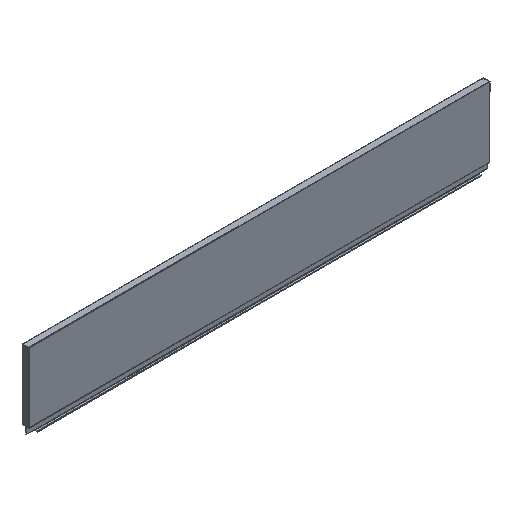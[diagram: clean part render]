
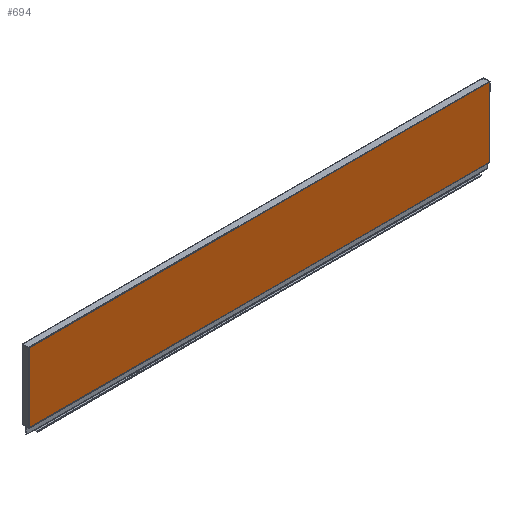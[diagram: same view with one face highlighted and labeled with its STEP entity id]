
A CAD part, isometric view. The second image highlights one B-rep face of the part: STEP entity #694.
In plain terms, the highlighted planar face has unit normal (0, -1, 0).
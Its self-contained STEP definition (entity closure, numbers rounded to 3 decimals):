
#128 = DIRECTION ( 'NONE',  ( 1., 0., 0. ) ) ;
#130 = DIRECTION ( 'NONE',  ( 0., -1., 0. ) ) ;
#132 = CARTESIAN_POINT ( 'NONE',  ( -555., -6., 17. ) ) ;
#134 = PLANE ( 'NONE',  #1292 ) ;
#211 = VERTEX_POINT ( 'NONE', #426 ) ;
#218 = VERTEX_POINT ( 'NONE', #423 ) ;
#220 = VERTEX_POINT ( 'NONE', #422 ) ;
#221 = VERTEX_POINT ( 'NONE', #421 ) ;
#228 = VERTEX_POINT ( 'NONE', #418 ) ;
#247 = VERTEX_POINT ( 'NONE', #410 ) ;
#253 = VERTEX_POINT ( 'NONE', #408 ) ;
#283 = VERTEX_POINT ( 'NONE', #400 ) ;
#310 = VERTEX_POINT ( 'NONE', #393 ) ;
#387 = CARTESIAN_POINT ( 'NONE',  ( 553.5, -6., 17.5 ) ) ;
#393 = CARTESIAN_POINT ( 'NONE',  ( 554., -6., 183.5 ) ) ;
#400 = CARTESIAN_POINT ( 'NONE',  ( -553.5, -6., 17. ) ) ;
#408 = CARTESIAN_POINT ( 'NONE',  ( 554., -6., 184. ) ) ;
#410 = CARTESIAN_POINT ( 'NONE',  ( 554., -6., 17.5 ) ) ;
#418 = CARTESIAN_POINT ( 'NONE',  ( -554., -6., 183.5 ) ) ;
#421 = CARTESIAN_POINT ( 'NONE',  ( -554., -6., 184. ) ) ;
#422 = CARTESIAN_POINT ( 'NONE',  ( 553.5, -6., 17. ) ) ;
#423 = CARTESIAN_POINT ( 'NONE',  ( -553.5, -6., 17.5 ) ) ;
#426 = CARTESIAN_POINT ( 'NONE',  ( -554., -6., 17.5 ) ) ;
#456 = VERTEX_POINT ( 'NONE', #387 ) ;
#505 = DIRECTION ( 'NONE',  ( 0., 0., -1. ) ) ;
#506 = CARTESIAN_POINT ( 'NONE',  ( -554., -6., 202.385 ) ) ;
#507 = DIRECTION ( 'NONE',  ( 1., 0., 0. ) ) ;
#509 = CARTESIAN_POINT ( 'NONE',  ( -555., -6., 184. ) ) ;
#511 = DIRECTION ( 'NONE',  ( 0., 0., -1. ) ) ;
#513 = CARTESIAN_POINT ( 'NONE',  ( 554., -6., 202.385 ) ) ;
#514 = DIRECTION ( 'NONE',  ( 0., 0., -1. ) ) ;
#515 = CARTESIAN_POINT ( 'NONE',  ( 554., -6., 202.385 ) ) ;
#590 = CARTESIAN_POINT ( 'NONE',  ( -555., -6., 17.5 ) ) ;
#591 = DIRECTION ( 'NONE',  ( 1., 0., 0. ) ) ;
#592 = CARTESIAN_POINT ( 'NONE',  ( -553.5, -6., 17.5 ) ) ;
#593 = DIRECTION ( 'NONE',  ( 0., 0., -1. ) ) ;
#594 = CARTESIAN_POINT ( 'NONE',  ( -555., -6., 17. ) ) ;
#595 = DIRECTION ( 'NONE',  ( 1., 0., 0. ) ) ;
#596 = CARTESIAN_POINT ( 'NONE',  ( -554., -6., 202.385 ) ) ;
#597 = DIRECTION ( 'NONE',  ( 0., 0., -1. ) ) ;
#598 = CARTESIAN_POINT ( 'NONE',  ( 553.5, -6., 17.5 ) ) ;
#599 = DIRECTION ( 'NONE',  ( 1., 0., 0. ) ) ;
#602 = CARTESIAN_POINT ( 'NONE',  ( 553.5, -6., 15.3 ) ) ;
#603 = DIRECTION ( 'NONE',  ( 0., 0., 1. ) ) ;
#694 = ADVANCED_FACE ( 'NONE', ( #2032 ), #134, .T. ) ;
#884 = EDGE_LOOP ( 'NONE', ( #1948, #1947, #1946, #1945, #1944, #1943, #1942, #1941, #1940, #1939 ) ) ;
#1292 = AXIS2_PLACEMENT_3D ( 'NONE', #132, #130, #128 ) ;
#1660 = EDGE_CURVE ( 'NONE', #310, #247, #2366, .T. ) ;
#1661 = EDGE_CURVE ( 'NONE', #253, #310, #2368, .T. ) ;
#1662 = EDGE_CURVE ( 'NONE', #221, #253, #2370, .T. ) ;
#1663 = EDGE_CURVE ( 'NONE', #221, #228, #2372, .T. ) ;
#1939 = ORIENTED_EDGE ( 'NONE', *, *, #1663, .T. ) ;
#1940 = ORIENTED_EDGE ( 'NONE', *, *, #1662, .F. ) ;
#1941 = ORIENTED_EDGE ( 'NONE', *, *, #1661, .F. ) ;
#1942 = ORIENTED_EDGE ( 'NONE', *, *, #1660, .F. ) ;
#1943 = ORIENTED_EDGE ( 'NONE', *, *, #2471, .T. ) ;
#1944 = ORIENTED_EDGE ( 'NONE', *, *, #2473, .T. ) ;
#1945 = ORIENTED_EDGE ( 'NONE', *, *, #2469, .T. ) ;
#1946 = ORIENTED_EDGE ( 'NONE', *, *, #2468, .T. ) ;
#1947 = ORIENTED_EDGE ( 'NONE', *, *, #2467, .T. ) ;
#1948 = ORIENTED_EDGE ( 'NONE', *, *, #2470, .T. ) ;
#2032 = FACE_OUTER_BOUND ( 'NONE', #884, .T. ) ;
#2366 = LINE ( 'NONE', #515, #2367 ) ;
#2367 = VECTOR ( 'NONE', #514, 1000. ) ;
#2368 = LINE ( 'NONE', #513, #2369 ) ;
#2369 = VECTOR ( 'NONE', #511, 1000. ) ;
#2370 = LINE ( 'NONE', #509, #2371 ) ;
#2371 = VECTOR ( 'NONE', #507, 1000. ) ;
#2372 = LINE ( 'NONE', #506, #2373 ) ;
#2373 = VECTOR ( 'NONE', #505, 1000. ) ;
#2416 = LINE ( 'NONE', #590, #2417 ) ;
#2417 = VECTOR ( 'NONE', #591, 1000. ) ;
#2418 = LINE ( 'NONE', #592, #2419 ) ;
#2419 = VECTOR ( 'NONE', #593, 1000. ) ;
#2420 = LINE ( 'NONE', #594, #2421 ) ;
#2421 = VECTOR ( 'NONE', #595, 1000. ) ;
#2422 = LINE ( 'NONE', #596, #2423 ) ;
#2423 = VECTOR ( 'NONE', #597, 1000. ) ;
#2424 = LINE ( 'NONE', #598, #2425 ) ;
#2425 = VECTOR ( 'NONE', #599, 1000. ) ;
#2428 = LINE ( 'NONE', #602, #2429 ) ;
#2429 = VECTOR ( 'NONE', #603, 1000. ) ;
#2467 = EDGE_CURVE ( 'NONE', #211, #218, #2416, .T. ) ;
#2468 = EDGE_CURVE ( 'NONE', #218, #283, #2418, .T. ) ;
#2469 = EDGE_CURVE ( 'NONE', #283, #220, #2420, .T. ) ;
#2470 = EDGE_CURVE ( 'NONE', #228, #211, #2422, .T. ) ;
#2471 = EDGE_CURVE ( 'NONE', #456, #247, #2424, .T. ) ;
#2473 = EDGE_CURVE ( 'NONE', #220, #456, #2428, .T. ) ;
